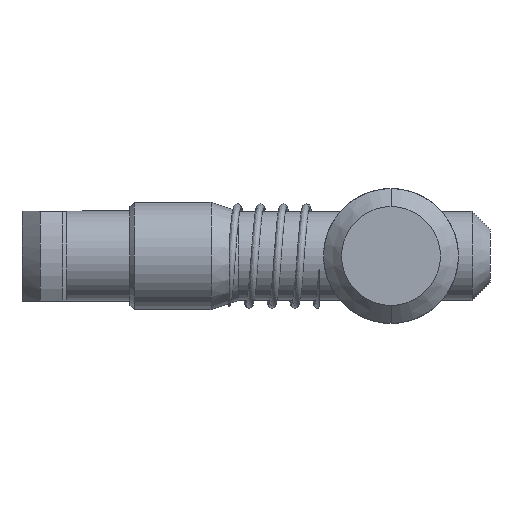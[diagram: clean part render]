
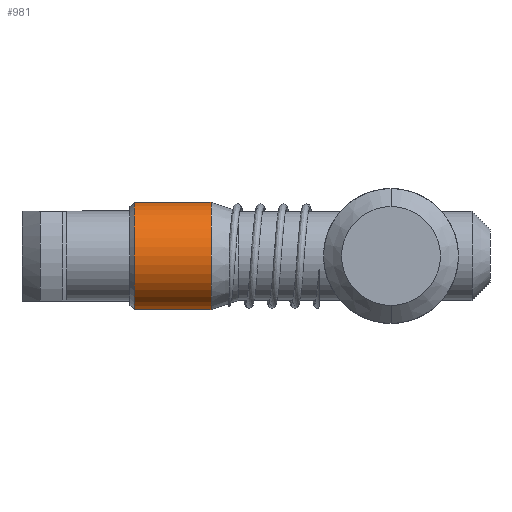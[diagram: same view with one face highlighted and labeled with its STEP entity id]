
A CAD part, left-side view. The second image highlights one B-rep face of the part: STEP entity #981.
In plain terms, the highlighted cylindrical face has radius 5.95 mm (diameter 11.9 mm), a partial arc.
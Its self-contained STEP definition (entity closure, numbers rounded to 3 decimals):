
#6 = AXIS2_PLACEMENT_3D ( 'NONE', #1041, #1029, #1011 ) ;
#82 = ORIENTED_EDGE ( 'NONE', *, *, #3160, .F. ) ;
#221 = AXIS2_PLACEMENT_3D ( 'NONE', #1642, #1625, #1614 ) ;
#335 = CARTESIAN_POINT ( 'NONE',  ( -1.519, 2.379, -3.368 ) ) ;
#427 = ORIENTED_EDGE ( 'NONE', *, *, #3867, .F. ) ;
#561 = LINE ( 'NONE', #1502, #666 ) ;
#564 = ORIENTED_EDGE ( 'NONE', *, *, #3115, .T. ) ;
#666 = VECTOR ( 'NONE', #1514, 1000. ) ;
#940 = CARTESIAN_POINT ( 'NONE',  ( -1.519, 23.379, -3.368 ) ) ;
#944 = DIRECTION ( 'NONE',  ( 0., 1., 0. ) ) ;
#981 = ADVANCED_FACE ( 'NONE', ( #2066 ), #1068, .T. ) ;
#1000 = VERTEX_POINT ( 'NONE', #1672 ) ;
#1011 = DIRECTION ( 'NONE',  ( 0., 0., 1. ) ) ;
#1029 = DIRECTION ( 'NONE',  ( 0., 1., 0. ) ) ;
#1041 = CARTESIAN_POINT ( 'NONE',  ( -1.519, 2.379, 2.582 ) ) ;
#1068 = CYLINDRICAL_SURFACE ( 'NONE', #2865, 5.95 ) ;
#1176 = LINE ( 'NONE', #940, #1430 ) ;
#1409 = VERTEX_POINT ( 'NONE', #2746 ) ;
#1430 = VECTOR ( 'NONE', #944, 1000. ) ;
#1502 = CARTESIAN_POINT ( 'NONE',  ( -1.519, 23.379, 8.532 ) ) ;
#1514 = DIRECTION ( 'NONE',  ( 0., 1., 0. ) ) ;
#1614 = DIRECTION ( 'NONE',  ( 0., 0., 1. ) ) ;
#1625 = DIRECTION ( 'NONE',  ( 0., 1., 0. ) ) ;
#1642 = CARTESIAN_POINT ( 'NONE',  ( -1.519, 10.879, 2.582 ) ) ;
#1649 = DIRECTION ( 'NONE',  ( 0., 0., 1. ) ) ;
#1656 = CARTESIAN_POINT ( 'NONE',  ( -1.519, 23.379, 2.582 ) ) ;
#1664 = DIRECTION ( 'NONE',  ( 0., 1., 0. ) ) ;
#1672 = CARTESIAN_POINT ( 'NONE',  ( -1.519, 10.879, -3.368 ) ) ;
#1680 = CIRCLE ( 'NONE', #6, 5.95 ) ;
#1996 = EDGE_LOOP ( 'NONE', ( #82, #564, #2575, #427 ) ) ;
#2066 = FACE_OUTER_BOUND ( 'NONE', #1996, .T. ) ;
#2445 = VERTEX_POINT ( 'NONE', #3309 ) ;
#2575 = ORIENTED_EDGE ( 'NONE', *, *, #3677, .T. ) ;
#2746 = CARTESIAN_POINT ( 'NONE',  ( -1.519, 10.879, 8.532 ) ) ;
#2859 = VERTEX_POINT ( 'NONE', #335 ) ;
#2865 = AXIS2_PLACEMENT_3D ( 'NONE', #1656, #1664, #1649 ) ;
#3115 = EDGE_CURVE ( 'NONE', #2859, #2445, #1680, .T. ) ;
#3160 = EDGE_CURVE ( 'NONE', #2859, #1000, #1176, .T. ) ;
#3309 = CARTESIAN_POINT ( 'NONE',  ( -1.519, 2.379, 8.532 ) ) ;
#3472 = CIRCLE ( 'NONE', #221, 5.95 ) ;
#3677 = EDGE_CURVE ( 'NONE', #2445, #1409, #561, .T. ) ;
#3867 = EDGE_CURVE ( 'NONE', #1000, #1409, #3472, .T. ) ;
